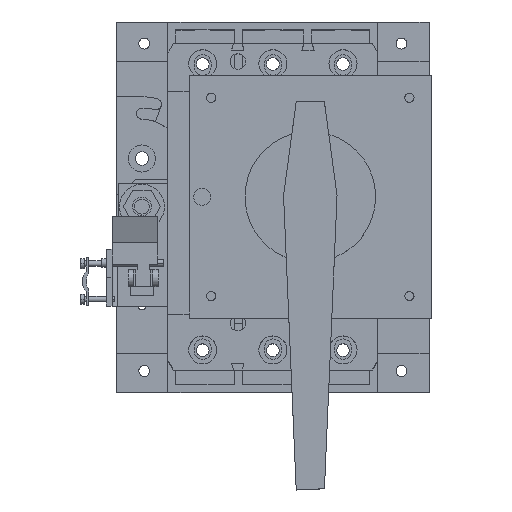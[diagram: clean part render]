
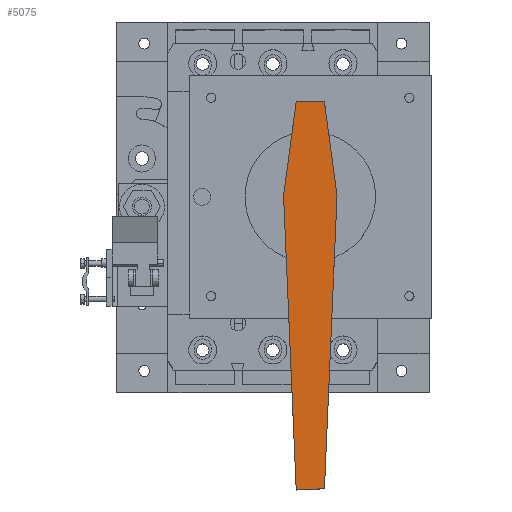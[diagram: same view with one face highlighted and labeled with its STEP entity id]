
A CAD part, top view. The second image highlights one B-rep face of the part: STEP entity #5075.
In plain terms, the highlighted planar face has unit normal (0, 0, 1).
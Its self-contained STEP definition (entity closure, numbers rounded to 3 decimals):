
#741 = VECTOR ( 'NONE', #31397, 1000. ) ;
#1066 = CARTESIAN_POINT ( 'NONE',  ( -2.459, 155.27, 334.45 ) ) ;
#1143 = DIRECTION ( 'NONE',  ( 0.133, 0.991, 0. ) ) ;
#1985 = CARTESIAN_POINT ( 'NONE',  ( -24.299, -2.03, 334.45 ) ) ;
#2269 = CARTESIAN_POINT ( 'NONE',  ( 4.299, -2.03, 334.45 ) ) ;
#4659 = LINE ( 'NONE', #23227, #12832 ) ;
#4667 = CARTESIAN_POINT ( 'NONE',  ( -17.569, 154.621, 334.45 ) ) ;
#4851 = CARTESIAN_POINT ( 'NONE',  ( -17.541, 154.622, 334.45 ) ) ;
#5075 = ADVANCED_FACE ( 'NONE', ( #16381 ), #8057, .F. ) ;
#5782 = DIRECTION ( 'NONE',  ( 1., 0., 0. ) ) ;
#5950 = LINE ( 'NONE', #19097, #19327 ) ;
#6598 = EDGE_CURVE ( 'NONE', #17514, #7335, #5950, .T. ) ;
#6795 = EDGE_CURVE ( 'NONE', #32575, #27352, #4659, .T. ) ;
#6968 = EDGE_CURVE ( 'NONE', #13346, #17514, #25204, .T. ) ;
#7306 = ORIENTED_EDGE ( 'NONE', *, *, #10593, .T. ) ;
#7335 = VERTEX_POINT ( 'NONE', #33082 ) ;
#8030 = CARTESIAN_POINT ( 'NONE',  ( -20.001, 154.516, 334.45 ) ) ;
#8057 = PLANE ( 'NONE',  #17899 ) ;
#8778 = ORIENTED_EDGE ( 'NONE', *, *, #6598, .T. ) ;
#10577 = DIRECTION ( 'NONE',  ( 0., 0., -1. ) ) ;
#10593 = EDGE_CURVE ( 'NONE', #34469, #26109, #17424, .T. ) ;
#10983 = EDGE_LOOP ( 'NONE', ( #8778, #23438, #7306, #15134, #21658, #35469, #14681, #13340 ) ) ;
#11393 = LINE ( 'NONE', #34275, #17462 ) ;
#12304 = LINE ( 'NONE', #30145, #31607 ) ;
#12832 = VECTOR ( 'NONE', #1143, 1000. ) ;
#13308 = CARTESIAN_POINT ( 'NONE',  ( -24.299, -2.03, 334.45 ) ) ;
#13340 = ORIENTED_EDGE ( 'NONE', *, *, #6968, .T. ) ;
#13346 = VERTEX_POINT ( 'NONE', #1066 ) ;
#14681 = ORIENTED_EDGE ( 'NONE', *, *, #31446, .T. ) ;
#14701 = CARTESIAN_POINT ( 'NONE',  ( -2.5, -52.65, 334.45 ) ) ;
#15024 = CARTESIAN_POINT ( 'NONE',  ( -2.459, 155.27, 334.45 ) ) ;
#15124 = CARTESIAN_POINT ( 'NONE',  ( -17.5, -52.65, 334.45 ) ) ;
#15134 = ORIENTED_EDGE ( 'NONE', *, *, #22098, .T. ) ;
#16381 = FACE_OUTER_BOUND ( 'NONE', #10983, .T. ) ;
#16634 = EDGE_CURVE ( 'NONE', #7335, #34469, #12304, .T. ) ;
#17424 = LINE ( 'NONE', #1985, #25519 ) ;
#17462 = VECTOR ( 'NONE', #25496, 1000. ) ;
#17514 = VERTEX_POINT ( 'NONE', #4851 ) ;
#17899 = AXIS2_PLACEMENT_3D ( 'NONE', #35530, #10577, #24455 ) ;
#18860 = DIRECTION ( 'NONE',  ( 0., -1., 0. ) ) ;
#19097 = CARTESIAN_POINT ( 'NONE',  ( -17.541, 152.23, 334.45 ) ) ;
#19327 = VECTOR ( 'NONE', #18860, 1000. ) ;
#19487 = DIRECTION ( 'NONE',  ( -0.999, 0.043, 0. ) ) ;
#20696 = LINE ( 'NONE', #27387, #34824 ) ;
#21658 = ORIENTED_EDGE ( 'NONE', *, *, #26934, .T. ) ;
#22098 = EDGE_CURVE ( 'NONE', #26109, #25974, #11393, .T. ) ;
#23227 = CARTESIAN_POINT ( 'NONE',  ( 4.299, -2.03, 334.45 ) ) ;
#23438 = ORIENTED_EDGE ( 'NONE', *, *, #16634, .T. ) ;
#24094 = LINE ( 'NONE', #15024, #27559 ) ;
#24455 = DIRECTION ( 'NONE',  ( -1., 0., 0. ) ) ;
#25204 = LINE ( 'NONE', #8030, #741 ) ;
#25496 = DIRECTION ( 'NONE',  ( 0.133, -0.991, 0. ) ) ;
#25519 = VECTOR ( 'NONE', #32458, 1000. ) ;
#25974 = VERTEX_POINT ( 'NONE', #15124 ) ;
#26109 = VERTEX_POINT ( 'NONE', #13308 ) ;
#26934 = EDGE_CURVE ( 'NONE', #25974, #32575, #20696, .T. ) ;
#27352 = VERTEX_POINT ( 'NONE', #2269 ) ;
#27387 = CARTESIAN_POINT ( 'NONE',  ( -2.5, -52.65, 334.45 ) ) ;
#27559 = VECTOR ( 'NONE', #31545, 1000. ) ;
#30145 = CARTESIAN_POINT ( 'NONE',  ( 38.073, 152.23, 334.45 ) ) ;
#31397 = DIRECTION ( 'NONE',  ( -0.999, -0.043, 0. ) ) ;
#31446 = EDGE_CURVE ( 'NONE', #27352, #13346, #24094, .T. ) ;
#31545 = DIRECTION ( 'NONE',  ( -0.043, 0.999, 0. ) ) ;
#31607 = VECTOR ( 'NONE', #19487, 1000. ) ;
#32458 = DIRECTION ( 'NONE',  ( -0.043, -0.999, 0. ) ) ;
#32575 = VERTEX_POINT ( 'NONE', #14701 ) ;
#33082 = CARTESIAN_POINT ( 'NONE',  ( -17.541, 154.62, 334.45 ) ) ;
#34275 = CARTESIAN_POINT ( 'NONE',  ( -17.5, -52.65, 334.45 ) ) ;
#34469 = VERTEX_POINT ( 'NONE', #4667 ) ;
#34824 = VECTOR ( 'NONE', #5782, 1000. ) ;
#35469 = ORIENTED_EDGE ( 'NONE', *, *, #6795, .T. ) ;
#35530 = CARTESIAN_POINT ( 'NONE',  ( -10., -1.5, 334.45 ) ) ;
